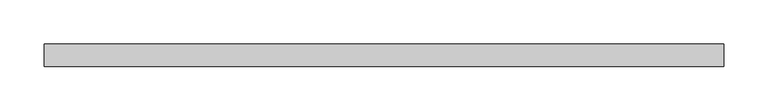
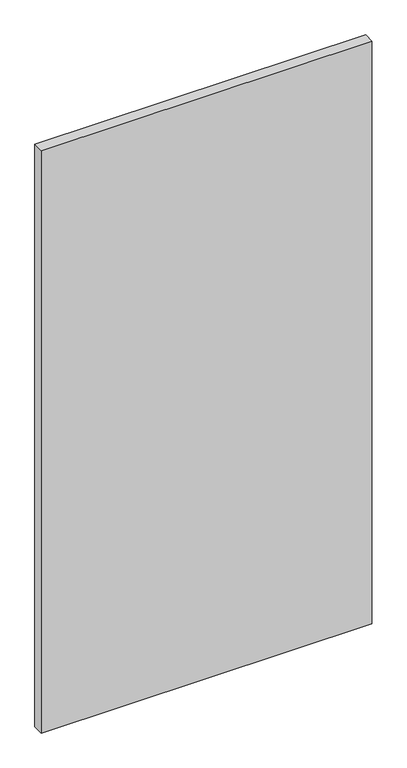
"""IFC4 building model written with IfcOpenShell, lengths in millimetres: plate geometry, Системная панель : С остеклением."""

from ifc_helpers import new_model, si_unit, origin, origin_with_axes, place, context, project, spatial, polyline, outline, extrude, source, transform, mapped, element, save


def plate_f051fab9(model_context):
    return source(origin(), model_context, "Body", "SweptSolid", [
        extrude(outline(polyline([(382.5, 24.5), (-382.5, 24.5), (-382.5, 49.5), (382.5, 49.5), (382.5, 24.5)])), origin_with_axes(), (0.0, 0.0, 1.0), 1425.0),
    ])


if __name__ == "__main__":
    model = new_model("IFC4")
    model_context = context("Model", 3, world=origin())
    ifc_project = project(units=[si_unit("LENGTHUNIT", "METRE", prefix="MILLI")], contexts=[model_context])
    site = spatial("IfcSite", under=ifc_project)
    building = spatial("IfcBuilding", under=site)
    placement = place(None, origin())
    plate_shape = plate_f051fab9(model_context)
    element("IfcPlate", 1, ObjectType="Системная панель : С остеклением", at=placement, inside=building, context=model_context, shape_type="MappedRepresentation", body=[
        mapped(plate_shape, transform((0.0, 0.0, 0.0), x_axis=(1.0, 0.0, 0.0), y_axis=(0.0, 1.0, 0.0), z_axis=(0.0, 0.0, 1.0))),
    ])
    save(model, "model.ifc")
